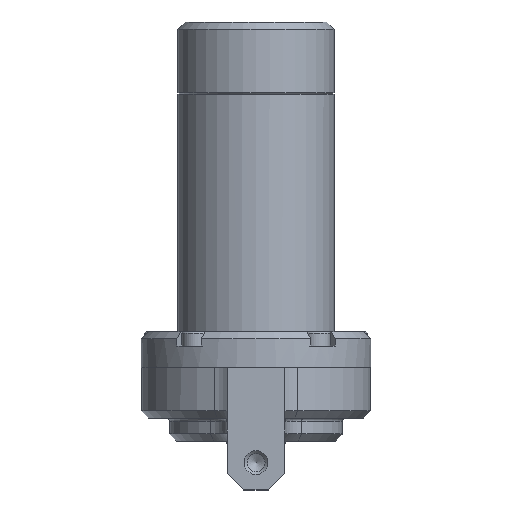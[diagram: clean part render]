
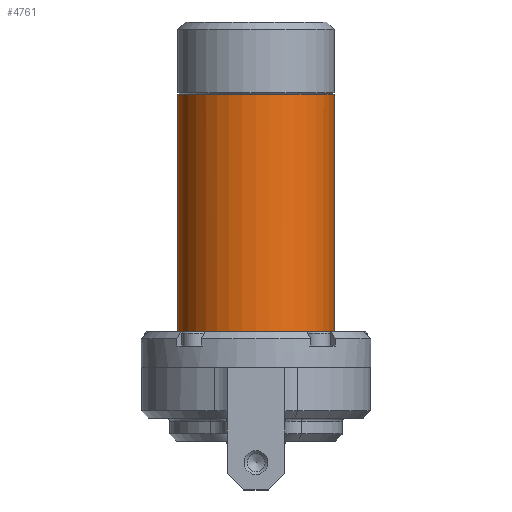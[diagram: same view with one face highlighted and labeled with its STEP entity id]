
A CAD part, front view. The second image highlights one B-rep face of the part: STEP entity #4761.
In plain terms, the highlighted cylindrical face has radius 10.85 mm (diameter 21.7 mm), a full revolution.
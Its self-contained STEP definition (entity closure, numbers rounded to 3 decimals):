
#37 = CARTESIAN_POINT ( 'NONE',  ( -0.518, 10.838, 0.736 ) ) ;
#77 = CARTESIAN_POINT ( 'NONE',  ( -1.947, 10.674, -0.672 ) ) ;
#105 = CARTESIAN_POINT ( 'NONE',  ( -1.322, 10.77, 0.307 ) ) ;
#210 = CARTESIAN_POINT ( 'NONE',  ( 10.85, 0., 30. ) ) ;
#325 = EDGE_CURVE ( 'NONE', #6556, #2217, #6360, .T. ) ;
#361 = DIRECTION ( 'NONE',  ( 0., 0., -1. ) ) ;
#372 = CARTESIAN_POINT ( 'NONE',  ( 0.528, 10.84, 0.747 ) ) ;
#520 = CARTESIAN_POINT ( 'NONE',  ( 0., 10.85, 0.8 ) ) ;
#743 = CIRCLE ( 'NONE', #1941, 10.85 ) ;
#863 = CARTESIAN_POINT ( 'NONE',  ( 1.591, 10.733, 0.019 ) ) ;
#911 = CARTESIAN_POINT ( 'NONE',  ( -2., 10.664, -1.2 ) ) ;
#953 = ORIENTED_EDGE ( 'NONE', *, *, #6286, .F. ) ;
#1013 = EDGE_LOOP ( 'NONE', ( #1136, #2805, #3682, #2101, #6348 ) ) ;
#1046 = CARTESIAN_POINT ( 'NONE',  ( -0.132, 10.85, 0.8 ) ) ;
#1072 = CARTESIAN_POINT ( 'NONE',  ( -2., 10.664, -0.935 ) ) ;
#1131 = VERTEX_POINT ( 'NONE', #210 ) ;
#1136 = ORIENTED_EDGE ( 'NONE', *, *, #4749, .F. ) ;
#1148 = EDGE_CURVE ( 'NONE', #4490, #6556, #1704, .T. ) ;
#1194 = CARTESIAN_POINT ( 'NONE',  ( -2., 10.664, -3. ) ) ;
#1638 = CARTESIAN_POINT ( 'NONE',  ( -2., 10.664, -1.2 ) ) ;
#1668 = CARTESIAN_POINT ( 'NONE',  ( -1.002, 10.804, 0.536 ) ) ;
#1703 = DIRECTION ( 'NONE',  ( 1., 0., 0. ) ) ;
#1704 = B_SPLINE_CURVE_WITH_KNOTS ( 'NONE', 3,
 ( #6120, #3487, #2998, #5044, #1916, #4565, #4003, #863, #4546, #6653, #3508, #372, #5775, #520 ),
 .UNSPECIFIED., .F., .F.,
 ( 4, 2, 2, 2, 2, 2, 4 ),
 ( 0., 0., 0.001, 0.001, 0.002, 0.002, 0.003 ),
 .UNSPECIFIED. ) ;
#1822 = FACE_OUTER_BOUND ( 'NONE', #1860, .T. ) ;
#1860 = EDGE_LOOP ( 'NONE', ( #953 ) ) ;
#1916 = CARTESIAN_POINT ( 'NONE',  ( 1.898, 10.683, -0.555 ) ) ;
#1941 = AXIS2_PLACEMENT_3D ( 'NONE', #6522, #2347, #1703 ) ;
#2101 = ORIENTED_EDGE ( 'NONE', *, *, #1148, .T. ) ;
#2217 = VERTEX_POINT ( 'NONE', #911 ) ;
#2347 = DIRECTION ( 'NONE',  ( 0., 0., 1. ) ) ;
#2706 = CARTESIAN_POINT ( 'NONE',  ( -1.219, 10.782, 0.391 ) ) ;
#2805 = ORIENTED_EDGE ( 'NONE', *, *, #6473, .F. ) ;
#2998 = CARTESIAN_POINT ( 'NONE',  ( 1.987, 10.667, -0.938 ) ) ;
#3232 = CARTESIAN_POINT ( 'NONE',  ( -0.887, 10.814, 0.597 ) ) ;
#3487 = CARTESIAN_POINT ( 'NONE',  ( 2., 10.664, -1.068 ) ) ;
#3508 = CARTESIAN_POINT ( 'NONE',  ( 1.008, 10.806, 0.547 ) ) ;
#3538 = CYLINDRICAL_SURFACE ( 'NONE', #6390, 10.85 ) ;
#3682 = ORIENTED_EDGE ( 'NONE', *, *, #6258, .F. ) ;
#3943 = FACE_OUTER_BOUND ( 'NONE', #1013, .T. ) ;
#4003 = CARTESIAN_POINT ( 'NONE',  ( 1.736, 10.711, -0.198 ) ) ;
#4012 = DIRECTION ( 'NONE',  ( 0., 1., 0. ) ) ;
#4143 = DIRECTION ( 'NONE',  ( 0., 0., 1. ) ) ;
#4230 = CARTESIAN_POINT ( 'NONE',  ( -0.262, 10.848, 0.787 ) ) ;
#4274 = CARTESIAN_POINT ( 'NONE',  ( -1.598, 10.733, 0.031 ) ) ;
#4490 = VERTEX_POINT ( 'NONE', #5621 ) ;
#4503 = CARTESIAN_POINT ( 'NONE',  ( 0., 0., -3. ) ) ;
#4546 = CARTESIAN_POINT ( 'NONE',  ( 1.507, 10.745, 0.122 ) ) ;
#4565 = CARTESIAN_POINT ( 'NONE',  ( 1.797, 10.7, -0.313 ) ) ;
#4693 = CARTESIAN_POINT ( 'NONE',  ( -2., 10.664, 30. ) ) ;
#4711 = DIRECTION ( 'NONE',  ( 0., 0., -1. ) ) ;
#4726 = CARTESIAN_POINT ( 'NONE',  ( 0., 10.85, 0.8 ) ) ;
#4749 = EDGE_CURVE ( 'NONE', #4934, #2217, #4758, .T. ) ;
#4758 = LINE ( 'NONE', #4693, #4912 ) ;
#4761 = ADVANCED_FACE ( 'NONE', ( #1822, #3943 ), #3538, .T. ) ;
#4912 = VECTOR ( 'NONE', #4143, 1000. ) ;
#4934 = VERTEX_POINT ( 'NONE', #1194 ) ;
#5035 = CARTESIAN_POINT ( 'NONE',  ( 0., 10.85, 0.8 ) ) ;
#5044 = CARTESIAN_POINT ( 'NONE',  ( 1.936, 10.676, -0.682 ) ) ;
#5288 = CARTESIAN_POINT ( 'NONE',  ( 2., 10.664, -3. ) ) ;
#5311 = CARTESIAN_POINT ( 'NONE',  ( -1.747, 10.709, -0.192 ) ) ;
#5339 = AXIS2_PLACEMENT_3D ( 'NONE', #4503, #361, #4012 ) ;
#5361 = DIRECTION ( 'NONE',  ( 0., 0., -1. ) ) ;
#5506 = VERTEX_POINT ( 'NONE', #5288 ) ;
#5508 = VECTOR ( 'NONE', #5361, 1000. ) ;
#5621 = CARTESIAN_POINT ( 'NONE',  ( 2., 10.664, -1.2 ) ) ;
#5775 = CARTESIAN_POINT ( 'NONE',  ( 0.265, 10.85, 0.8 ) ) ;
#5799 = DIRECTION ( 'NONE',  ( -1., 0., 0. ) ) ;
#5814 = CARTESIAN_POINT ( 'NONE',  ( 0., 0., 30. ) ) ;
#6086 = LINE ( 'NONE', #6404, #5508 ) ;
#6120 = CARTESIAN_POINT ( 'NONE',  ( 2., 10.664, -1.2 ) ) ;
#6258 = EDGE_CURVE ( 'NONE', #4490, #5506, #6086, .T. ) ;
#6286 = EDGE_CURVE ( 'NONE', #1131, #1131, #743, .T. ) ;
#6348 = ORIENTED_EDGE ( 'NONE', *, *, #325, .T. ) ;
#6360 = B_SPLINE_CURVE_WITH_KNOTS ( 'NONE', 3,
 ( #4726, #1046, #4230, #37, #6365, #3232, #1668, #2706, #105, #4274, #5311, #77, #1072, #1638 ),
 .UNSPECIFIED., .F., .F.,
 ( 4, 2, 2, 2, 2, 2, 4 ),
 ( 0., 0., 0.001, 0.001, 0.002, 0.002, 0.003 ),
 .UNSPECIFIED. ) ;
#6365 = CARTESIAN_POINT ( 'NONE',  ( -0.645, 10.831, 0.698 ) ) ;
#6390 = AXIS2_PLACEMENT_3D ( 'NONE', #5814, #4711, #5799 ) ;
#6404 = CARTESIAN_POINT ( 'NONE',  ( 2., 10.664, 30. ) ) ;
#6473 = EDGE_CURVE ( 'NONE', #5506, #4934, #6588, .T. ) ;
#6522 = CARTESIAN_POINT ( 'NONE',  ( 0., 0., 30. ) ) ;
#6556 = VERTEX_POINT ( 'NONE', #5035 ) ;
#6588 = CIRCLE ( 'NONE', #5339, 10.85 ) ;
#6653 = CARTESIAN_POINT ( 'NONE',  ( 1.231, 10.782, 0.398 ) ) ;
